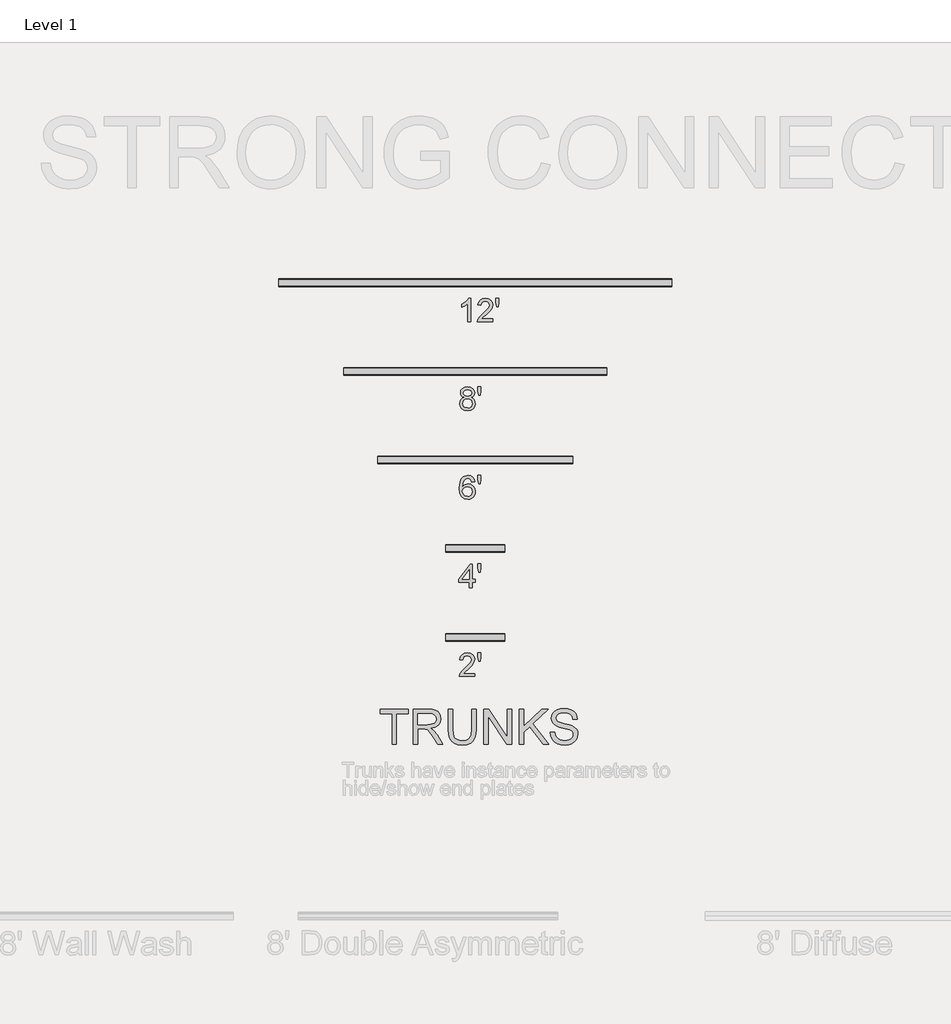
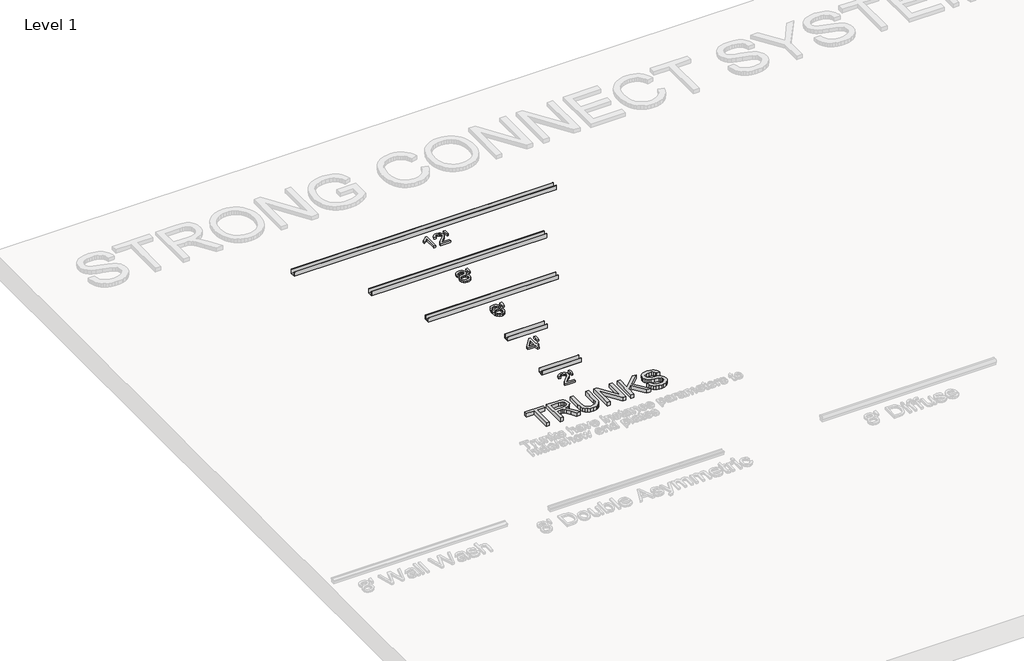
# One storey, part 7 of 9: 11 proxies.
"""IFC4 building model written with IfcOpenShell, lengths in millimetres."""

from ifc_helpers import new_model, si_unit, origin, origin_with_axes, place, context, project, spatial, polyline, outline, extrude, transform, mapped, element, save
from components import sc_trunk_12_ba87172d, sc_trunk_2_c930d22d, sc_trunk_6_1de17b20, sc_trunk_8_07c4f8b3

model = new_model("IFC4")

# Units and contexts
model_context = context("Model", 3, world=origin())
ifc_project = project(units=[si_unit("LENGTHUNIT", "METRE", prefix="MILLI")], contexts=[model_context])

# Site, building, storey
site = spatial("IfcSite", under=ifc_project)
building = spatial("IfcBuilding", under=site)
storey = spatial("IfcBuildingStorey", under=building, Name="Level 1", Elevation=0.0)

# Proxies
placement = place(None, origin())
element("IfcBuildingElementProxy", 1, Name="24\" Arial", ObjectType="24\" Arial", at=placement, inside=storey, context=model_context, shape_type="SweptSolid", body=[
    extrude(outline(polyline([(-8054.1605305, 9253.8773759), (-8054.1605305, 9520.3735832), (-8154.0966083, 9520.3735832), (-8154.0966083, 9558.44447), (-7916.153566, 9558.44447), (-7916.153566, 9520.3735832), (-8016.0896438, 9520.3735832), (-8016.0896438, 9253.8773759), (-8054.1605305, 9253.8773759)])), origin_with_axes(), (0.0, 0.0, 1.0), 50.8),
    extrude(outline(polyline([(-7873.3238184, 9253.8773759), (-7873.3238184, 9558.44447), (-7742.0833592, 9558.44447), (-7706.8101621, 9556.3903523), (-7681.1476332, 9550.2279993), (-7662.3910293, 9538.8513476), (-7647.8356073, 9521.1543338), (-7638.494484, 9499.209665), (-7635.3807762, 9475.090048), (-7640.539307, 9445.0869175), (-7656.0148994, 9420.2144339), (-7667.7377768, 9410.078618), (-7682.2722859, 9401.9783304), (-7719.776199, 9391.8843404), (-7698.1382536, 9375.6001135), (-7667.2800153, 9336.4138687), (-7616.4940472, 9253.8773759), (-7660.7365816, 9253.8773759), (-7700.3689696, 9317.0066393), (-7728.9964919, 9358.7953861), (-7749.1101147, 9378.5372229), (-7767.216093, 9385.78705), (-7789.3001816, 9387.1254796), (-7835.2529317, 9387.1254796), (-7835.2529317, 9253.8773759), (-7873.3238184, 9253.8773759)]), holes=[polyline([(-7835.2529317, 9425.1963663), (-7750.0395797, 9425.1963663), (-7725.566766, 9426.5440906), (-7706.5777959, 9430.5872634), (-7692.282624, 9437.5954296), (-7681.8912052, 9447.838134), (-7675.5615485, 9460.2279025), (-7673.4516629, 9473.6772612), (-7677.4762464, 9492.2479721), (-7689.5499969, 9507.2123587), (-7710.3235398, 9517.0832771), (-7740.4475008, 9520.3735832), (-7835.2529317, 9520.3735832), (-7835.2529317, 9425.1963663)])]), origin_with_axes(), (0.0, 0.0, 1.0), 50.8),
    extrude(outline(polyline([(-7368.8845689, 9558.44447), (-7330.8136821, 9558.44447), (-7330.8136821, 9382.7384047), (-7333.3975948, 9341.5909888), (-7341.149333, 9309.9055267), (-7355.6303979, 9285.4605969), (-7378.4022906, 9266.0347782), (-7409.5207791, 9253.3475809), (-7449.0416312, 9249.1185151), (-7487.6980809, 9252.7991965), (-7518.6027925, 9263.8412408), (-7541.7650605, 9281.8635673), (-7557.1941797, 9306.4850954), (-7565.8660882, 9339.5089872), (-7568.7567244, 9382.7384047), (-7568.7567244, 9558.44447), (-7530.6858376, 9558.44447), (-7530.6858376, 9384.0768344), (-7528.8083183, 9349.8632274), (-7523.1757603, 9326.0410392), (-7512.9702345, 9309.5430353), (-7497.3738117, 9297.3019811), (-7477.0371173, 9289.7175467), (-7452.6107769, 9287.1894018), (-7413.8892646, 9292.1899236), (-7399.3942578, 9298.4405758), (-7388.1430839, 9307.1914888), (-7379.7174836, 9319.4976055), (-7373.6991976, 9336.4138687), (-7368.8845689, 9384.0768344), (-7368.8845689, 9558.44447)])), origin_with_axes(), (0.0, 0.0, 1.0), 50.8),
    extrude(outline(polyline([(-7264.1896303, 9253.8773759), (-7264.1896303, 9558.44447), (-7223.4418843, 9558.44447), (-7064.3174748, 9317.1553537), (-7064.3174748, 9558.44447), (-7026.2465881, 9558.44447), (-7026.2465881, 9253.8773759), (-7066.994334, 9253.8773759), (-7226.1187435, 9495.2408494), (-7226.1187435, 9253.8773759), (-7264.1896303, 9253.8773759)])), origin_with_axes(), (0.0, 0.0, 1.0), 50.8),
    extrude(outline(polyline([(-6959.6225362, 9253.8773759), (-6959.6225362, 9558.44447), (-6921.5516495, 9558.44447), (-6921.5516495, 9409.3582826), (-6765.401528, 9558.44447), (-6712.1617723, 9558.44447), (-6843.2535171, 9433.226944), (-6707.4029115, 9253.8773759), (-6753.9505191, 9253.8773759), (-6870.245181, 9407.4993526), (-6921.5516495, 9358.5723145), (-6921.5516495, 9253.8773759), (-6959.6225362, 9253.8773759)])), origin_with_axes(), (0.0, 0.0, 1.0), 50.8),
    extrude(outline(polyline([(-6693.1263289, 9358.5723145), (-6655.0554422, 9358.5723145), (-6650.6869566, 9337.4455749), (-6642.786504, 9320.4642492), (-6630.461798, 9306.9870065), (-6612.8205522, 9296.3725161), (-6591.256964, 9289.4851804), (-6567.1652309, 9287.1894018), (-6545.9548394, 9288.9275014), (-6527.3841286, 9294.1418001), (-6512.3360901, 9302.3954494), (-6501.6937157, 9313.2516007), (-6495.364059, 9325.7157265), (-6493.2541734, 9338.7932991), (-6494.8342639, 9351.5362644), (-6499.5745355, 9362.5504248), (-6509.203793, 9371.947316), (-6525.4508413, 9379.8384739), (-6580.8841345, 9394.3753067), (-6617.2726896, 9403.9952695), (-6640.555788, 9413.1504998), (-6659.5075795, 9425.9585276), (-6672.9383489, 9441.4805933), (-6680.9410427, 9459.3820894), (-6683.6086072, 9479.3284085), (-6680.3090064, 9501.626274), (-6670.4102041, 9522.4184063), (-6654.1724504, 9540.0410628), (-6631.8559955, 9552.8305013), (-6605.068814, 9560.6101235), (-6575.4188802, 9563.2033308), (-6543.2965695, 9560.489293), (-6515.1895476, 9552.3471795), (-6492.1016368, 9538.9442941), (-6475.0366593, 9520.4479404), (-6464.2362759, 9498.0106551), (-6459.9421475, 9472.7849748), (-6498.0130343, 9472.7849748), (-6505.0026111, 9495.5010996), (-6519.5766225, 9511.8968624), (-6542.3485152, 9521.8235487), (-6573.9317362, 9525.1324441), (-6606.2585292, 9521.8607273), (-6628.4355643, 9512.0455768), (-6641.2621814, 9497.6016905), (-6645.5377205, 9480.4437665), (-6642.5076645, 9465.8139872), (-6633.4174968, 9454.0469602), (-6611.9282658, 9443.5254163), (-6571.254877, 9432.7808008), (-6529.2802372, 9422.575275), (-6503.8872531, 9413.6710002), (-6482.1842452, 9399.8591502), (-6467.0432602, 9382.8127619), (-6458.1482801, 9362.7177285), (-6455.1832867, 9339.7599427), (-6458.5944233, 9316.2909513), (-6468.827833, 9294.2161573), (-6485.4652567, 9275.2178925), (-6508.088435, 9260.9784886), (-6535.2938758, 9252.0835085), (-6565.6780869, 9249.1185151), (-6602.9775177, 9252.3158747), (-6633.677747, 9261.9079536), (-6658.1319713, 9277.9319304), (-6676.6933876, 9300.4249836), (-6688.609129, 9327.825612), (-6693.1263289, 9358.5723145)])), origin_with_axes(), (0.0, 0.0, 1.0), 50.8),
])
element("IfcBuildingElementProxy", 2, Name="8\"", ObjectType="8\"", at=placement, inside=storey, context=model_context, shape_type="SweptSolid", body=[
    extrude(outline(polyline([(-7376.3568931, 12890.0517512), (-7401.7374843, 12890.0517512), (-7401.7374843, 13048.2838743), (-7425.7796458, 13031.1569324), (-7452.4986666, 13018.3427082), (-7452.4986666, 13042.3352982), (-7415.2952805, 13066.080031), (-7401.6817164, 13079.7989345), (-7392.7154773, 13093.0964806), (-7376.3568931, 13093.0964806), (-7376.3568931, 12890.0517512)])), origin_with_axes(), (0.0, 0.0, 1.0), 25.4),
    extrude(outline(polyline([(-7186.0024593, 12915.4323424), (-7186.0024593, 12890.0517512), (-7319.250563, 12890.0517512), (-7316.5241323, 12907.5504791), (-7301.107406, 12934.4925715), (-7269.3320956, 12963.9132372), (-7225.5109186, 13006.1976987), (-7217.2944479, 13020.77171), (-7214.5556244, 13034.9491496), (-7217.1395371, 13047.6580345), (-7224.8912753, 13058.2229535), (-7236.8070167, 13065.3426554), (-7251.8829391, 13067.7158894), (-7267.7148264, 13065.3984233), (-7280.0147467, 13058.4460251), (-7287.9523779, 13047.4039808), (-7290.6973979, 13032.8175766), (-7316.0779891, 13035.9901505), (-7309.9249307, 13060.5404196), (-7296.6211882, 13078.4728978), (-7276.8607621, 13089.4405849), (-7251.337653, 13093.0964806), (-7225.6286508, 13089.0316203), (-7205.9054034, 13076.8370394), (-7193.3576257, 13058.6195252), (-7189.1750332, 13036.4858651), (-7193.6860367, 13012.4189178), (-7208.6814055, 12987.5340413), (-7245.0420767, 12952.7596571), (-7274.2396708, 12928.3457096), (-7285.6906797, 12915.4323424), (-7186.0024593, 12915.4323424)])), origin_with_axes(), (0.0, 0.0, 1.0), 25.4),
    extrude(outline(polyline([(-7154.9211494, 13020.127281), (-7160.6218681, 13058.6443109), (-7160.6218681, 13093.0964806), (-7135.241277, 13093.0964806), (-7135.241277, 13058.6443109), (-7141.189853, 13020.127281), (-7154.9211494, 13020.127281)])), origin_with_axes(), (0.0, 0.0, 1.0), 25.4),
])
element("IfcBuildingElementProxy", 3, Name="8\"", ObjectType="8\"", at=placement, inside=storey, context=model_context, shape_type="SweptSolid", body=[
    extrude(outline(polyline([(-7434.5537955, 12239.8849811), (-7448.1425739, 12246.5771291), (-7457.6788849, 12255.6487076), (-7463.3114429, 12266.9138235), (-7465.1889622, 12280.1865838), (-7461.0993162, 12300.0275636), (-7448.830378, 12316.4233263), (-7429.7577561, 12327.428192), (-7405.2570584, 12331.0964806), (-7380.6076464, 12327.341442), (-7361.2871671, 12316.076326), (-7348.7951574, 12299.4203131), (-7344.6311541, 12279.4925833), (-7346.4838877, 12266.6473769), (-7352.0420885, 12255.5743504), (-7361.3677207, 12246.5585398), (-7374.5227488, 12239.8849811), (-7358.9015402, 12231.8358141), (-7347.531085, 12219.982037), (-7340.597276, 12204.8937217), (-7338.2860063, 12187.14094), (-7342.871367, 12162.8757069), (-7356.6274492, 12142.8240484), (-7377.8688228, 12129.3653951), (-7404.9100582, 12124.8791773), (-7431.9512935, 12129.3839844), (-7453.1926672, 12142.8984056), (-7466.9487493, 12163.1421535), (-7471.53411, 12187.8349406), (-7469.1298938, 12206.2755263), (-7461.9172454, 12221.4443953), (-7450.2679506, 12232.821047), (-7434.5537955, 12239.8849811)]), holes=[polyline([(-7439.808371, 12279.4430118), (-7437.5590657, 12268.3637889), (-7430.8111497, 12259.5152821), (-7419.762909, 12253.7154204), (-7404.6126294, 12251.7821332), (-7389.8155464, 12253.7030275), (-7378.9346094, 12259.4657106), (-7372.2424613, 12268.0167887), (-7370.0117453, 12278.3028681), (-7372.3168185, 12288.9793228), (-7379.2320382, 12297.8092404), (-7390.2616896, 12303.7392272), (-7404.9100582, 12305.7158894), (-7419.6513732, 12303.7826022), (-7430.6624353, 12297.9827405), (-7437.5218871, 12289.4812339), (-7439.808371, 12279.4430118)]), polyline([(-7446.1535188, 12188.727227), (-7441.9151584, 12169.6174264), (-7436.047136, 12161.419545), (-7426.9197896, 12155.3160581), (-7404.7117723, 12150.2597685), (-7387.436116, 12152.9180384), (-7374.4731773, 12160.8928482), (-7366.3682425, 12172.9696969), (-7363.6665975, 12187.9340835), (-7366.4549925, 12203.1525239), (-7374.8201776, 12215.4958192), (-7388.0805451, 12223.6751113), (-7405.5544872, 12226.401542), (-7422.5884826, 12223.7122899), (-7435.4212962, 12215.6445336), (-7443.4704632, 12203.5367028), (-7446.1535188, 12188.727227)])]), origin_with_axes(), (0.0, 0.0, 1.0), 25.4),
    extrude(outline(polyline([(-7310.3772703, 12258.127281), (-7316.0779891, 12296.6443109), (-7316.0779891, 12331.0964806), (-7290.6973979, 12331.0964806), (-7290.6973979, 12296.6443109), (-7296.6459739, 12258.127281), (-7310.3772703, 12258.127281)])), origin_with_axes(), (0.0, 0.0, 1.0), 25.4),
])
element("IfcBuildingElementProxy", 4, Name="8\"", ObjectType="8\"", at=placement, inside=storey, context=model_context, shape_type="SweptSolid", body=[
    extrude(outline(polyline([(-7341.4585802, 11515.1627243), (-7366.8391714, 11511.9901505), (-7376.456036, 11533.1571669), (-7387.9690093, 11541.0762088), (-7401.8861987, 11543.7158894), (-7424.7882165, 11537.5690275), (-7434.3245275, 11527.8592164), (-7442.1134442, 11514.4935095), (-7447.3742162, 11495.5881913), (-7449.3260927, 11469.2595458), (-7439.1453527, 11481.1381086), (-7426.9445753, 11489.5094901), (-7413.4053683, 11494.4728333), (-7399.2093394, 11496.127281), (-7375.7620355, 11491.6038846), (-7356.082163, 11478.0336955), (-7342.7350455, 11457.3004293), (-7338.2860063, 11431.287802), (-7340.3804008, 11413.1136628), (-7346.6635843, 11396.2655604), (-7356.6150563, 11381.976585), (-7369.7143165, 11371.4798269), (-7385.3665072, 11365.0293397), (-7402.9767709, 11362.8791773), (-7431.7715969, 11368.579896), (-7454.7045969, 11385.6820522), (-7463.45551, 11398.9300268), (-7469.7061621, 11415.8710757), (-7474.7066839, 11460.8323964), (-7473.3186828, 11488.1059979), (-7469.1546796, 11511.3829), (-7462.2146742, 11530.6631025), (-7452.4986666, 11545.9466054), (-7441.9678281, 11556.0746758), (-7429.7577561, 11563.3090118), (-7400.2999117, 11569.0964806), (-7378.0299301, 11565.5149421), (-7360.1965948, 11554.7703266), (-7347.7045851, 11537.705349), (-7341.4585802, 11515.1627243)]), holes=[polyline([(-7449.3260927, 11431.6843737), (-7443.4518739, 11409.699428), (-7427.8368617, 11393.7374156), (-7404.9596296, 11388.2597685), (-7388.2106702, 11391.097735), (-7375.0432492, 11399.6116345), (-7366.5107604, 11412.9959306), (-7363.6665975, 11430.445087), (-7366.4735818, 11447.1940465), (-7374.8945348, 11459.9648957), (-7388.2850274, 11468.0512413), (-7406.0006304, 11470.7466898), (-7422.7248042, 11468.0512413), (-7436.7101543, 11459.9648957), (-7446.1721081, 11447.5038681), (-7449.3260927, 11431.6843737)])]), origin_with_axes(), (0.0, 0.0, 1.0), 25.4),
    extrude(outline(polyline([(-7310.3772703, 11496.127281), (-7316.0779891, 11534.6443109), (-7316.0779891, 11569.0964806), (-7290.6973979, 11569.0964806), (-7290.6973979, 11534.6443109), (-7296.6459739, 11496.127281), (-7310.3772703, 11496.127281)])), origin_with_axes(), (0.0, 0.0, 1.0), 25.4),
])
element("IfcBuildingElementProxy", 5, Name="8\"", ObjectType="8\"", at=placement, inside=storey, context=model_context, shape_type="SweptSolid", body=[
    extrude(outline(polyline([(-7389.0471887, 10604.0517512), (-7389.0471887, 10651.6403597), (-7481.0518317, 10651.6403597), (-7481.0518317, 10677.0209508), (-7382.7020409, 10803.9239067), (-7363.6665975, 10803.9239067), (-7363.6665975, 10677.0209508), (-7338.2860063, 10677.0209508), (-7338.2860063, 10651.6403597), (-7363.6665975, 10651.6403597), (-7363.6665975, 10604.0517512), (-7389.0471887, 10604.0517512)]), holes=[polyline([(-7389.0471887, 10677.0209508), (-7389.0471887, 10755.4430118), (-7449.8218074, 10677.0209508), (-7389.0471887, 10677.0209508)])]), origin_with_axes(), (0.0, 0.0, 1.0), 25.4),
    extrude(outline(polyline([(-7310.3772703, 10734.127281), (-7316.0779891, 10772.6443109), (-7316.0779891, 10807.0964806), (-7290.6973979, 10807.0964806), (-7290.6973979, 10772.6443109), (-7296.6459739, 10734.127281), (-7310.3772703, 10734.127281)])), origin_with_axes(), (0.0, 0.0, 1.0), 25.4),
])
element("IfcBuildingElementProxy", 6, Name="8\"", ObjectType="8\"", at=placement, inside=storey, context=model_context, shape_type="SweptSolid", body=[
    extrude(outline(polyline([(-7341.4585802, 9864.2573424), (-7341.4585802, 9838.8767512), (-7474.7066839, 9838.8767512), (-7471.9802532, 9856.3754791), (-7456.5635269, 9883.3175715), (-7424.7882165, 9912.7382372), (-7380.9670395, 9955.0226987), (-7372.7505689, 9969.59671), (-7370.0117453, 9983.7741496), (-7372.595658, 9996.4830345), (-7380.3473962, 10007.0479535), (-7392.2631376, 10014.1676554), (-7407.3390601, 10016.5408894), (-7423.1709474, 10014.2234233), (-7435.4708677, 10007.2710251), (-7443.4084988, 9996.2289808), (-7446.1535188, 9981.6425766), (-7471.53411, 9984.8151505), (-7465.3810516, 10009.3654196), (-7452.0773091, 10027.2978978), (-7432.3168831, 10038.2655849), (-7406.7937739, 10041.9214806), (-7381.0847718, 10037.8566203), (-7361.3615243, 10025.6620394), (-7348.8137467, 10007.4445252), (-7344.6311541, 9985.3108651), (-7349.1421576, 9961.2439178), (-7364.1375264, 9936.3590413), (-7400.4981976, 9901.5846571), (-7429.6957917, 9877.1707096), (-7441.1468006, 9864.2573424), (-7341.4585802, 9864.2573424)])), origin_with_axes(), (0.0, 0.0, 1.0), 25.4),
    extrude(outline(polyline([(-7310.3772703, 9968.952281), (-7316.0779891, 10007.4693109), (-7316.0779891, 10041.9214806), (-7290.6973979, 10041.9214806), (-7290.6973979, 10007.4693109), (-7296.6459739, 9968.952281), (-7310.3772703, 9968.952281)])), origin_with_axes(), (0.0, 0.0, 1.0), 25.4),
])
sc_trunk_12_shape = sc_trunk_12_ba87172d(model_context)
element("IfcBuildingElementProxy", 7, Name="SC-Trunk : 12'", ObjectType="SC-Trunk : 12'", at=placement, inside=storey, context=model_context, shape_type="MappedRepresentation", body=[
    mapped(sc_trunk_12_shape, transform((-7338.3015838, 13226.6054873, 0.0), x_axis=(1.0, 0.0, 0.0), y_axis=(0.0, 1.0, 0.0), z_axis=(0.0, 0.0, 1.0))),
])
sc_trunk_2_shape = sc_trunk_2_c930d22d(model_context)
element("IfcBuildingElementProxy", 8, Name="SC-Trunk : 2'", ObjectType="SC-Trunk : 2'", at=placement, inside=storey, context=model_context, shape_type="MappedRepresentation", body=[
    mapped(sc_trunk_2_shape, transform((-7338.3015838, 10940.6054873, 0.0), x_axis=(1.0, 0.0, 0.0), y_axis=(0.0, 1.0, 0.0), z_axis=(0.0, 0.0, 1.0))),
])
element("IfcBuildingElementProxy", 9, Name="SC-Trunk : 2'", ObjectType="SC-Trunk : 2'", at=placement, inside=storey, context=model_context, shape_type="MappedRepresentation", body=[
    mapped(sc_trunk_2_shape, transform((-7338.3015838, 10175.4304873, 0.0), x_axis=(1.0, 0.0, 0.0), y_axis=(0.0, 1.0, 0.0), z_axis=(0.0, 0.0, 1.0))),
])
sc_trunk_6_shape = sc_trunk_6_1de17b20(model_context)
element("IfcBuildingElementProxy", 10, Name="SC-Trunk : 6'", ObjectType="SC-Trunk : 6'", at=placement, inside=storey, context=model_context, shape_type="MappedRepresentation", body=[
    mapped(sc_trunk_6_shape, transform((-7338.3015838, 11702.6054873, 0.0), x_axis=(1.0, 0.0, 0.0), y_axis=(0.0, 1.0, 0.0), z_axis=(0.0, 0.0, 1.0))),
])
sc_trunk_8_shape = sc_trunk_8_07c4f8b3(model_context)
element("IfcBuildingElementProxy", 11, Name="SC-Trunk : 8'", ObjectType="SC-Trunk : 8'", at=placement, inside=storey, context=model_context, shape_type="MappedRepresentation", body=[
    mapped(sc_trunk_8_shape, transform((-7338.3015838, 12464.6054873, 0.0), x_axis=(1.0, 0.0, 0.0), y_axis=(0.0, 1.0, 0.0), z_axis=(0.0, 0.0, 1.0))),
])

save(model, "model.ifc")
